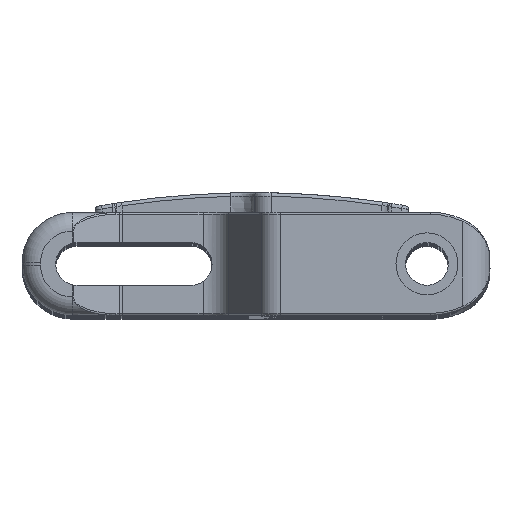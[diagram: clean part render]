
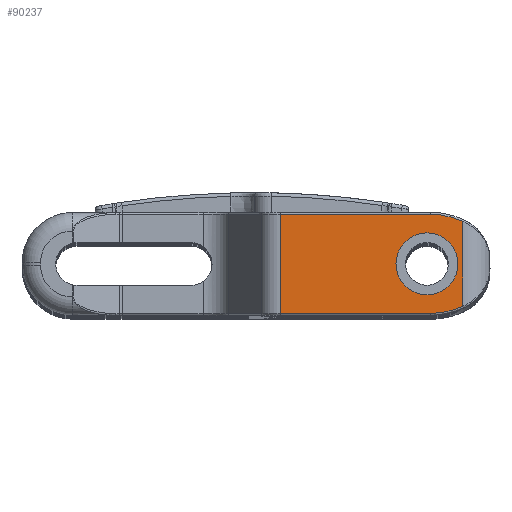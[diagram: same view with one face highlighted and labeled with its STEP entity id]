
A CAD part, top view. The second image highlights one B-rep face of the part: STEP entity #90237.
In plain terms, the highlighted planar face has unit normal (0, 0, 1).
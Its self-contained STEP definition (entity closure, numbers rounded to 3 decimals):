
#33405=DIRECTION('',(-1.,0.,0.));
#33406=VECTOR('',#33405,21.796);
#33407=CARTESIAN_POINT('',(42.597,-7.2,99.45));
#33408=LINE('',#33407,#33406);
#33420=CARTESIAN_POINT('',(47.263,-6.167,
99.45));
#33421=CARTESIAN_POINT('',(47.134,-6.227,
99.45));
#33422=CARTESIAN_POINT('',(46.873,-6.344,
99.45));
#33423=CARTESIAN_POINT('',(46.471,-6.504,
99.45));
#33424=CARTESIAN_POINT('',(46.059,-6.649,99.45));
#33425=CARTESIAN_POINT('',(45.641,-6.777,99.45));
#33426=CARTESIAN_POINT('',(45.221,-6.889,99.45));
#33427=CARTESIAN_POINT('',(44.793,-6.984,99.45));
#33428=CARTESIAN_POINT('',(44.361,-7.062,99.45));
#33429=CARTESIAN_POINT('',(43.924,-7.124,99.45));
#33430=CARTESIAN_POINT('',(43.483,-7.168,99.45));
#33431=CARTESIAN_POINT('',(43.04,-7.194,99.45));
#33432=CARTESIAN_POINT('',(42.745,-7.2,99.45));
#33433=CARTESIAN_POINT('',(42.597,-7.2,99.45));
#33617=CARTESIAN_POINT('',(42.597,7.2,99.45));
#33618=CARTESIAN_POINT('',(42.743,7.2,99.45));
#33619=CARTESIAN_POINT('',(43.037,7.194,99.45));
#33620=CARTESIAN_POINT('',(43.477,7.168,99.45));
#33621=CARTESIAN_POINT('',(43.917,7.124,99.45));
#33622=CARTESIAN_POINT('',(44.354,7.063,99.45));
#33623=CARTESIAN_POINT('',(44.786,6.985,99.45));
#33624=CARTESIAN_POINT('',(45.215,6.89,99.45));
#33625=CARTESIAN_POINT('',(45.636,6.779,99.45));
#33626=CARTESIAN_POINT('',(46.056,6.65,99.45));
#33627=CARTESIAN_POINT('',(46.468,6.505,99.45));
#33628=CARTESIAN_POINT('',(46.872,6.344,99.45));
#33629=CARTESIAN_POINT('',(47.134,6.227,99.45));
#33630=CARTESIAN_POINT('',(47.263,6.167,99.45));
#33642=DIRECTION('',(1.,0.,0.));
#33643=VECTOR('',#33642,21.796);
#33644=CARTESIAN_POINT('',(20.801,7.2,99.45));
#33645=LINE('',#33644,#33643);
#34066=DIRECTION('',(0.,1.,0.));
#34067=VECTOR('',#34066,14.4);
#34068=CARTESIAN_POINT('',(20.801,-7.2,99.45));
#34069=LINE('',#34068,#34067);
#34073=CARTESIAN_POINT('',(42.1,0.,99.45));
#34074=DIRECTION('',(0.,0.,-1.));
#34075=DIRECTION('',(-1.,0.,0.));
#34076=AXIS2_PLACEMENT_3D('',#34073,#34074,#34075);
#34081=CARTESIAN_POINT('',(42.1,0.,99.45));
#34082=DIRECTION('',(0.,0.,-1.));
#34083=DIRECTION('',(1.,0.,0.));
#34084=AXIS2_PLACEMENT_3D('',#34081,#34082,#34083);
#34089=DIRECTION('',(0.,-1.,0.));
#34090=VECTOR('',#34089,12.333);
#34091=CARTESIAN_POINT('',(47.263,6.167,99.45));
#34092=LINE('',#34091,#34090);
#51725=CARTESIAN_POINT('',(37.6,0.,99.45));
#51726=VERTEX_POINT('',#51725);
#51727=CARTESIAN_POINT('',(46.6,0.,99.45));
#51728=VERTEX_POINT('',#51727);
#52651=VERTEX_POINT('',#33617);
#52652=VERTEX_POINT('',#33630);
#52653=CARTESIAN_POINT('',(20.801,7.2,99.45));
#52654=VERTEX_POINT('',#52653);
#52655=CARTESIAN_POINT('',(20.801,-7.2,99.45));
#52656=VERTEX_POINT('',#52655);
#52657=CARTESIAN_POINT('',(42.597,-7.2,99.45));
#52658=VERTEX_POINT('',#52657);
#52659=VERTEX_POINT('',#33420);
#90217=CARTESIAN_POINT('',(50.1,-116.989,99.45));
#90218=DIRECTION('',(0.,0.,1.));
#90219=DIRECTION('',(1.,0.,0.));
#90220=AXIS2_PLACEMENT_3D('',#90217,#90218,#90219);
#90221=PLANE('',#90220);
#90222=ORIENTED_EDGE('',*,*,#90211,.T.);
#90223=ORIENTED_EDGE('',*,*,#89922,.T.);
#90224=ORIENTED_EDGE('',*,*,#89908,.T.);
#90226=ORIENTED_EDGE('',*,*,#90225,.T.);
#90227=ORIENTED_EDGE('',*,*,#89523,.T.);
#90228=ORIENTED_EDGE('',*,*,#89496,.T.);
#90229=EDGE_LOOP('',(#90222,#90223,#90224,#90226,#90227,#90228));
#90230=FACE_OUTER_BOUND('',#90229,.F.);
#90232=ORIENTED_EDGE('',*,*,#90231,.F.);
#90234=ORIENTED_EDGE('',*,*,#90233,.F.);
#90235=EDGE_LOOP('',(#90232,#90234));
#90236=FACE_BOUND('',#90235,.F.);
#33434=B_SPLINE_CURVE_WITH_KNOTS('',3,(#33420,#33421,#33422,#33423,#33424,
#33425,#33426,#33427,#33428,#33429,#33430,#33431,#33432,#33433),.UNSPECIFIED.,
.F.,.F.,(4,1,1,1,1,1,1,1,1,1,1,4),(0.,0.091,0.182,
0.273,0.364,0.455,0.545,
0.636,0.727,0.818,0.909,1.),
.UNSPECIFIED.);
#33631=B_SPLINE_CURVE_WITH_KNOTS('',3,(#33617,#33618,#33619,#33620,#33621,
#33622,#33623,#33624,#33625,#33626,#33627,#33628,#33629,#33630),.UNSPECIFIED.,
.F.,.F.,(4,1,1,1,1,1,1,1,1,1,1,4),(0.,0.091,0.182,
0.273,0.364,0.455,0.545,
0.636,0.727,0.818,0.909,1.),
.UNSPECIFIED.);
#34077=CIRCLE('',#34076,4.5);
#34085=CIRCLE('',#34084,4.5);
#89496=EDGE_CURVE('',#52658,#52656,#33408,.T.);
#89523=EDGE_CURVE('',#52659,#52658,#33434,.T.);
#89908=EDGE_CURVE('',#52651,#52652,#33631,.T.);
#89922=EDGE_CURVE('',#52654,#52651,#33645,.T.);
#90211=EDGE_CURVE('',#52656,#52654,#34069,.T.);
#90225=EDGE_CURVE('',#52652,#52659,#34092,.T.);
#90231=EDGE_CURVE('',#51726,#51728,#34077,.T.);
#90233=EDGE_CURVE('',#51728,#51726,#34085,.T.);
#90237=ADVANCED_FACE('',(#90230,#90236),#90221,.T.);
